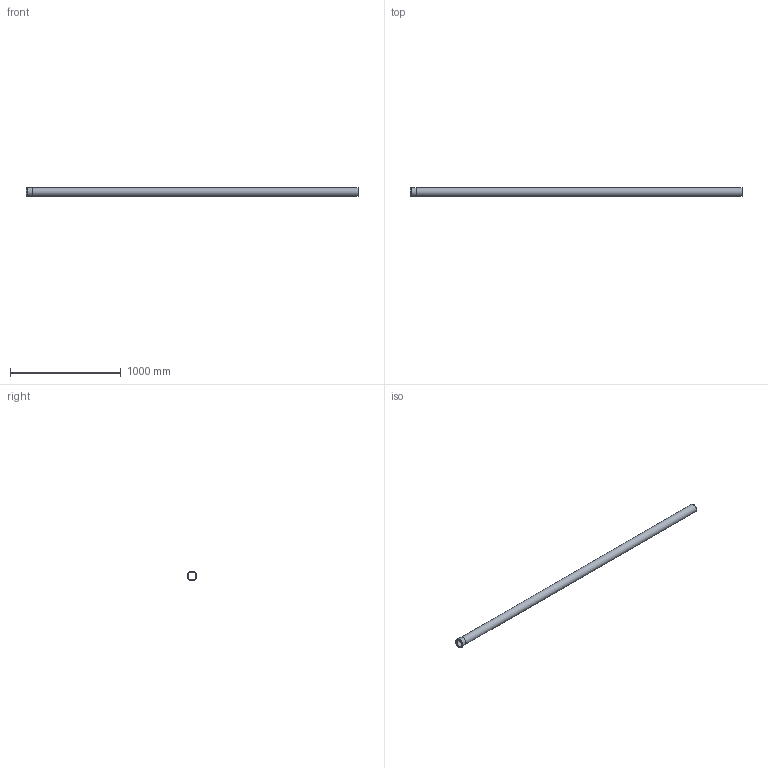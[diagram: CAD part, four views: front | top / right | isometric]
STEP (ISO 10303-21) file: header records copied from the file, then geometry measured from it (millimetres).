
FILE_DESCRIPTION((''),'2;1');
FILE_NAME('I:\WATTS\3D_CAD\3D_CAD_Models\Blucher_Drains\P_StraightPipe\WebsiteFiles\3D\STEP\P3-9.8-316.stp','2009-12-02T14:13:01',('menesek'),(''),'Autodesk Inventor 2010','Autodesk Inventor 2010','');
FILE_SCHEMA(('AUTOMOTIVE_DESIGN { 1 0 10303 214 1 1 1 1 }'));
Length unit declared in the file: inch
Products named in the file (1): P3-9.8-316
Bounding box: 3000 x 87.12 x 87.12 mm (x, y, z)
Volume: 723503.5 mm3; surface area: 1397277 mm2
Topology: 1 solids, 1 shells, 109 faces, 285 edges, 190 vertices
Faces by surface type: plane 59, bspline 34, cylinder 16
Full cylindrical faces by diameter (mm): 72.898 x1, 74.93 x1, 75.946 x2, 87.122 x1
Entity records: 13765 total; most frequent: CARTESIAN_POINT 11387, ORIENTED_EDGE 548, DIRECTION 356, EDGE_CURVE 274, VERTEX_POINT 186, EDGE_LOOP 128, AXIS2_PLACEMENT_3D 120, VECTOR 116
